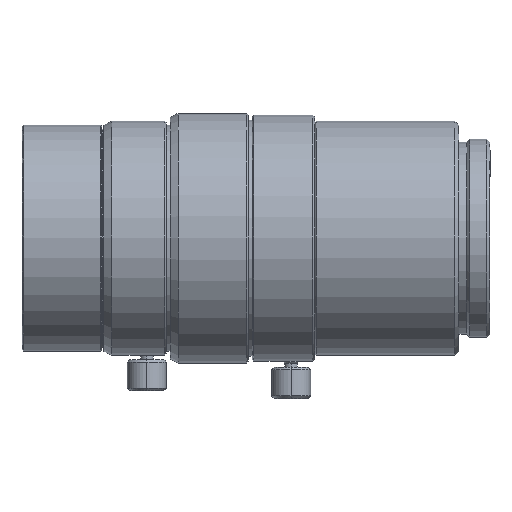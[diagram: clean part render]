
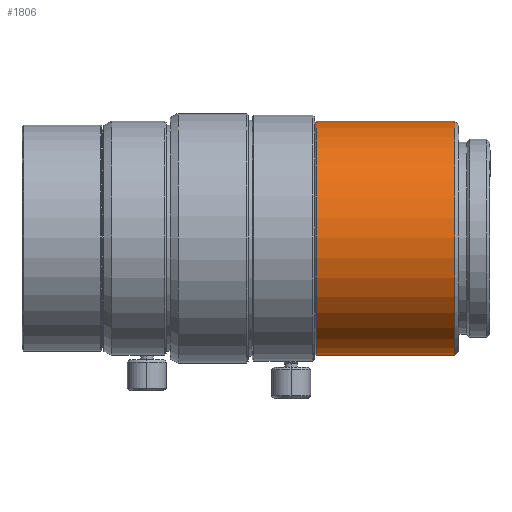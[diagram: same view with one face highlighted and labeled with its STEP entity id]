
A CAD part, top view. The second image highlights one B-rep face of the part: STEP entity #1806.
In plain terms, the highlighted cylindrical face has radius 15 mm (diameter 30 mm), a partial arc.
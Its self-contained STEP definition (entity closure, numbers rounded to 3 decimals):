
#21 = DIRECTION ( 'NONE',  ( 0., -1., 0. ) ) ;
#87 = ORIENTED_EDGE ( 'NONE', *, *, #729, .T. ) ;
#169 = DIRECTION ( 'NONE',  ( -1., 0., 0. ) ) ;
#242 = CARTESIAN_POINT ( 'NONE',  ( -35.8, 15., 0. ) ) ;
#434 = CIRCLE ( 'NONE', #1229, 15. ) ;
#466 = CARTESIAN_POINT ( 'NONE',  ( -76., -15., 0. ) ) ;
#490 = VECTOR ( 'NONE', #1049, 1000. ) ;
#522 = CARTESIAN_POINT ( 'NONE',  ( -76., 15., 0. ) ) ;
#588 = ORIENTED_EDGE ( 'NONE', *, *, #831, .F. ) ;
#602 = LINE ( 'NONE', #466, #3325 ) ;
#605 = CARTESIAN_POINT ( 'NONE',  ( -35.8, -15., 0. ) ) ;
#729 = EDGE_CURVE ( 'NONE', #898, #2559, #1106, .T. ) ;
#831 = EDGE_CURVE ( 'NONE', #2701, #2559, #3083, .T. ) ;
#898 = VERTEX_POINT ( 'NONE', #2035 ) ;
#1043 = AXIS2_PLACEMENT_3D ( 'NONE', #1488, #169, #2013 ) ;
#1049 = DIRECTION ( 'NONE',  ( -1., 0., 0. ) ) ;
#1079 = CARTESIAN_POINT ( 'NONE',  ( -76., 0., 0. ) ) ;
#1106 = LINE ( 'NONE', #522, #490 ) ;
#1229 = AXIS2_PLACEMENT_3D ( 'NONE', #1486, #3339, #1754 ) ;
#1479 = VERTEX_POINT ( 'NONE', #2288 ) ;
#1486 = CARTESIAN_POINT ( 'NONE',  ( -18., 0., 0. ) ) ;
#1488 = CARTESIAN_POINT ( 'NONE',  ( -35.8, 0., 0. ) ) ;
#1542 = ORIENTED_EDGE ( 'NONE', *, *, #3152, .T. ) ;
#1754 = DIRECTION ( 'NONE',  ( 0., -1., 0. ) ) ;
#1806 = ADVANCED_FACE ( 'NONE', ( #3140 ), #2502, .T. ) ;
#1870 = ORIENTED_EDGE ( 'NONE', *, *, #2451, .F. ) ;
#1892 = AXIS2_PLACEMENT_3D ( 'NONE', #1079, #3204, #21 ) ;
#2013 = DIRECTION ( 'NONE',  ( 0., -1., 0. ) ) ;
#2035 = CARTESIAN_POINT ( 'NONE',  ( -18., 15., 0. ) ) ;
#2288 = CARTESIAN_POINT ( 'NONE',  ( -18., -15., 0. ) ) ;
#2451 = EDGE_CURVE ( 'NONE', #1479, #2701, #602, .T. ) ;
#2502 = CYLINDRICAL_SURFACE ( 'NONE', #1892, 15. ) ;
#2559 = VERTEX_POINT ( 'NONE', #242 ) ;
#2701 = VERTEX_POINT ( 'NONE', #605 ) ;
#2831 = DIRECTION ( 'NONE',  ( -1., 0., 0. ) ) ;
#3083 = CIRCLE ( 'NONE', #1043, 15. ) ;
#3120 = EDGE_LOOP ( 'NONE', ( #1542, #87, #588, #1870 ) ) ;
#3140 = FACE_OUTER_BOUND ( 'NONE', #3120, .T. ) ;
#3152 = EDGE_CURVE ( 'NONE', #1479, #898, #434, .T. ) ;
#3204 = DIRECTION ( 'NONE',  ( -1., 0., 0. ) ) ;
#3325 = VECTOR ( 'NONE', #2831, 1000. ) ;
#3339 = DIRECTION ( 'NONE',  ( -1., 0., 0. ) ) ;
